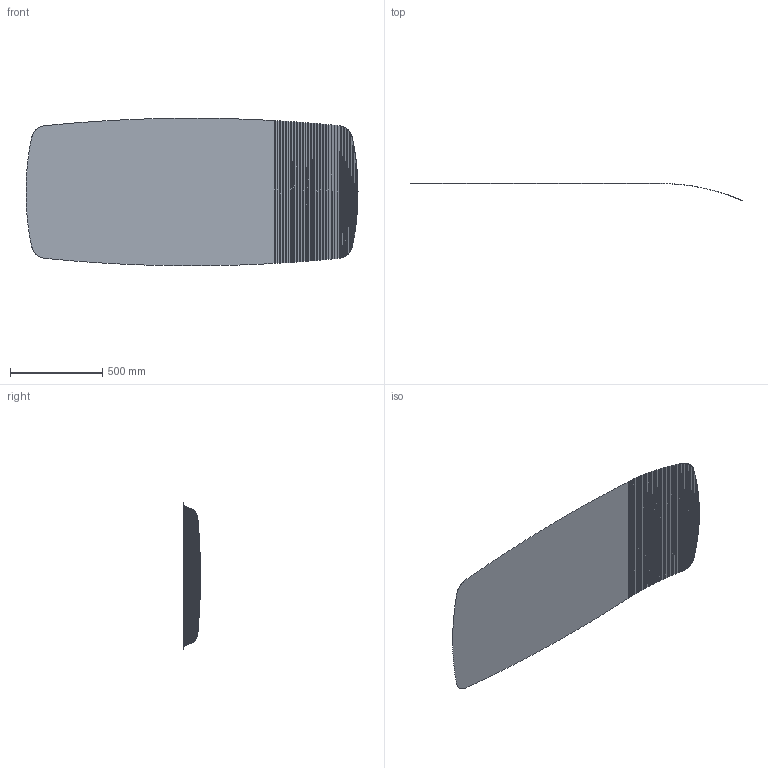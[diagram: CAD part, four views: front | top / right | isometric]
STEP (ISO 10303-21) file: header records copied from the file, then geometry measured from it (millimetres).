
FILE_DESCRIPTION (( 'STEP AP203' ), '1' );
FILE_NAME ('KRT01_Kirty_190x80.STEP', '2024-08-06T07:24:37', ( '' ), ( '' ), 'SwSTEP 2.0', 'SolidWorks 2022', '' );
FILE_SCHEMA (( 'CONFIG_CONTROL_DESIGN' ));
Length unit declared in the file: millimetre
Products named in the file (2): KRT01_Kirty_190x80; 3dgeom-7
Assembly tree (1 placements, depth 2):
  KRT01_Kirty_190x80
    3dgeom-7
Bounding box: 1800.02 x 92.05 x 799.95 mm (x, y, z)
Surface area: 1363595.5 mm2 (no closed solid volume)
Topology: 0 solids, 2 shells, 159 faces, 525 edges, 368 vertices
Faces by surface type: plane 159
Entity records: 5521 total; most frequent: CARTESIAN_POINT 1059, DIRECTION 850, ORIENTED_EDGE 682, EDGE_CURVE 525, LINE 524, VECTOR 524, VERTEX_POINT 368, AXIS2_PLACEMENT_3D 163
